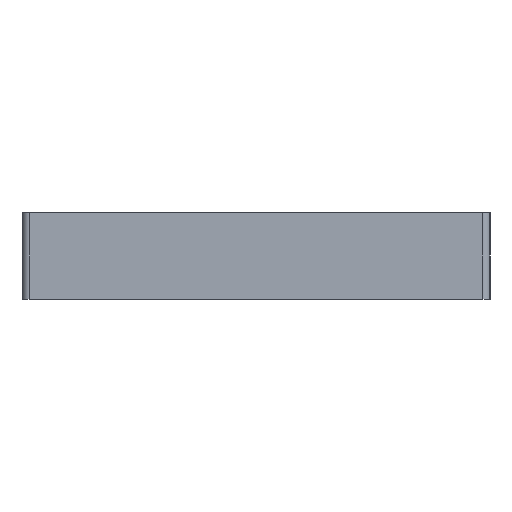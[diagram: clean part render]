
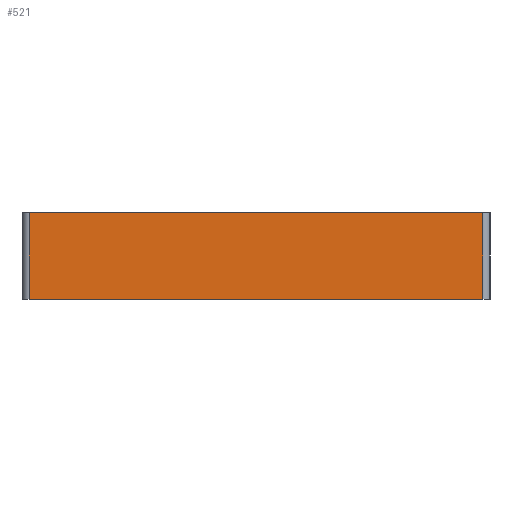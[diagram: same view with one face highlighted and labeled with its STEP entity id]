
A CAD part, left-side view. The second image highlights one B-rep face of the part: STEP entity #521.
In plain terms, the highlighted planar face has unit normal (-1, 0, 0).
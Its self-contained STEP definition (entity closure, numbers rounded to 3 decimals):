
#521=ADVANCED_FACE('',(#1449),#1451,.T.);
#1449=FACE_BOUND('',#1450,.T.);
#1450=EDGE_LOOP('',(#2217,#2218,#2219,#2220));
#1451=PLANE('',#1452);
#1452=AXIS2_PLACEMENT_3D('',#1453,#1454,#1455);
#1453=CARTESIAN_POINT('',(-50.,31.5,0.));
#1454=DIRECTION('',(-1.,0.,0.));
#1455=DIRECTION('',(0.,-1.,0.));
#2217=ORIENTED_EDGE('',*,*,#2630,.T.);
#2218=ORIENTED_EDGE('',*,*,#2631,.T.);
#2219=ORIENTED_EDGE('',*,*,#2568,.F.);
#2220=ORIENTED_EDGE('',*,*,#2629,.F.);
#2568=EDGE_CURVE('',#2922,#2924,#2925,.T.);
#2629=EDGE_CURVE('',#3031,#2922,#3033,.T.);
#2630=EDGE_CURVE('',#3031,#3034,#3035,.T.);
#2631=EDGE_CURVE('',#3034,#2924,#3036,.T.);
#2922=VERTEX_POINT('',#3666);
#2924=VERTEX_POINT('',#3671);
#2925=LINE('',#3672,#3673);
#3031=VERTEX_POINT('',#3917);
#3033=LINE('',#3922,#3923);
#3034=VERTEX_POINT('',#3925);
#3035=LINE('',#3926,#3927);
#3036=LINE('',#3929,#3930);
#3666=CARTESIAN_POINT('',(-50.,31.5,12.));
#3671=CARTESIAN_POINT('',(-50.,-31.5,12.));
#3672=CARTESIAN_POINT('',(-50.,31.5,12.));
#3673=VECTOR('',#3674,1.);
#3674=DIRECTION('',(0.,-1.,0.));
#3917=CARTESIAN_POINT('',(-50.,31.5,0.));
#3922=CARTESIAN_POINT('',(-50.,31.5,0.));
#3923=VECTOR('',#3924,1.);
#3924=DIRECTION('',(0.,0.,1.));
#3925=CARTESIAN_POINT('',(-50.,-31.5,0.));
#3926=CARTESIAN_POINT('',(-50.,31.5,0.));
#3927=VECTOR('',#3928,1.);
#3928=DIRECTION('',(0.,-1.,0.));
#3929=CARTESIAN_POINT('',(-50.,-31.5,0.));
#3930=VECTOR('',#3931,1.);
#3931=DIRECTION('',(0.,0.,1.));
